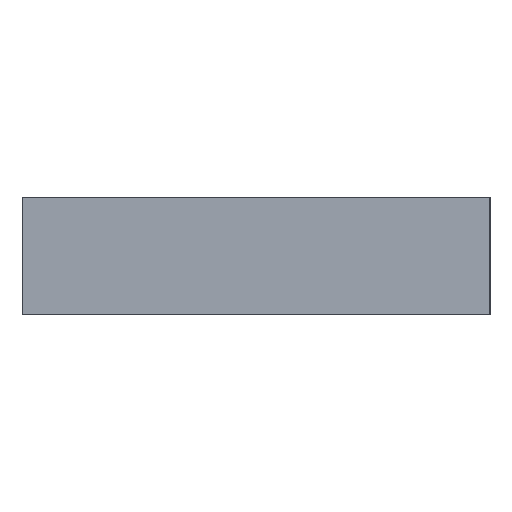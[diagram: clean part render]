
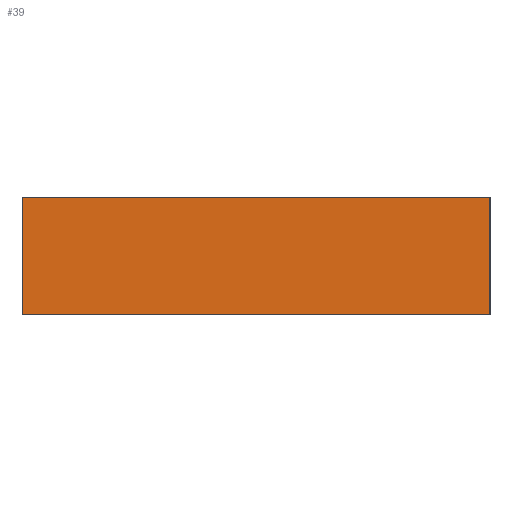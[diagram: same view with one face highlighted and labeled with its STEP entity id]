
A CAD part, left-side view. The second image highlights one B-rep face of the part: STEP entity #39.
In plain terms, the highlighted planar face has unit normal (-1, 0, 0).
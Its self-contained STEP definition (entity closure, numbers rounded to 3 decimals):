
#39 = ADVANCED_FACE('',(#40),#54,.F.);
#40 = FACE_BOUND('',#41,.F.);
#41 = EDGE_LOOP('',(#42,#77,#105,#133));
#42 = ORIENTED_EDGE('',*,*,#43,.F.);
#43 = EDGE_CURVE('',#44,#46,#48,.T.);
#44 = VERTEX_POINT('',#45);
#45 = CARTESIAN_POINT('',(-12.,-12.,-3.));
#46 = VERTEX_POINT('',#47);
#47 = CARTESIAN_POINT('',(-12.,-12.,3.));
#48 = SURFACE_CURVE('',#49,(#53,#65),.PCURVE_S1.);
#49 = LINE('',#50,#51);
#50 = CARTESIAN_POINT('',(-12.,-12.,-3.));
#51 = VECTOR('',#52,1.);
#52 = DIRECTION('',(0.,0.,1.));
#53 = PCURVE('',#54,#59);
#54 = PLANE('',#55);
#55 = AXIS2_PLACEMENT_3D('',#56,#57,#58);
#56 = CARTESIAN_POINT('',(-12.,-12.,-3.));
#57 = DIRECTION('',(1.,0.,-0.));
#58 = DIRECTION('',(0.,0.,1.));
#59 = DEFINITIONAL_REPRESENTATION('',(#60),#64);
#60 = LINE('',#61,#62);
#61 = CARTESIAN_POINT('',(0.,0.));
#62 = VECTOR('',#63,1.);
#63 = DIRECTION('',(1.,0.));
#64 = ( GEOMETRIC_REPRESENTATION_CONTEXT(2) 
PARAMETRIC_REPRESENTATION_CONTEXT() REPRESENTATION_CONTEXT('2D SPACE',''
  ) );
#65 = PCURVE('',#66,#71);
#66 = PLANE('',#67);
#67 = AXIS2_PLACEMENT_3D('',#68,#69,#70);
#68 = CARTESIAN_POINT('',(-12.,-12.,-3.));
#69 = DIRECTION('',(-0.,1.,0.));
#70 = DIRECTION('',(0.,0.,1.));
#71 = DEFINITIONAL_REPRESENTATION('',(#72),#76);
#72 = LINE('',#73,#74);
#73 = CARTESIAN_POINT('',(0.,0.));
#74 = VECTOR('',#75,1.);
#75 = DIRECTION('',(1.,0.));
#76 = ( GEOMETRIC_REPRESENTATION_CONTEXT(2) 
PARAMETRIC_REPRESENTATION_CONTEXT() REPRESENTATION_CONTEXT('2D SPACE',''
  ) );
#77 = ORIENTED_EDGE('',*,*,#78,.T.);
#78 = EDGE_CURVE('',#44,#79,#81,.T.);
#79 = VERTEX_POINT('',#80);
#80 = CARTESIAN_POINT('',(-12.,12.,-3.));
#81 = SURFACE_CURVE('',#82,(#86,#93),.PCURVE_S1.);
#82 = LINE('',#83,#84);
#83 = CARTESIAN_POINT('',(-12.,-12.,-3.));
#84 = VECTOR('',#85,1.);
#85 = DIRECTION('',(-0.,1.,0.));
#86 = PCURVE('',#54,#87);
#87 = DEFINITIONAL_REPRESENTATION('',(#88),#92);
#88 = LINE('',#89,#90);
#89 = CARTESIAN_POINT('',(0.,0.));
#90 = VECTOR('',#91,1.);
#91 = DIRECTION('',(0.,-1.));
#92 = ( GEOMETRIC_REPRESENTATION_CONTEXT(2) 
PARAMETRIC_REPRESENTATION_CONTEXT() REPRESENTATION_CONTEXT('2D SPACE',''
  ) );
#93 = PCURVE('',#94,#99);
#94 = PLANE('',#95);
#95 = AXIS2_PLACEMENT_3D('',#96,#97,#98);
#96 = CARTESIAN_POINT('',(-12.,-12.,-3.));
#97 = DIRECTION('',(0.,0.,1.));
#98 = DIRECTION('',(1.,0.,-0.));
#99 = DEFINITIONAL_REPRESENTATION('',(#100),#104);
#100 = LINE('',#101,#102);
#101 = CARTESIAN_POINT('',(0.,0.));
#102 = VECTOR('',#103,1.);
#103 = DIRECTION('',(0.,1.));
#104 = ( GEOMETRIC_REPRESENTATION_CONTEXT(2) 
PARAMETRIC_REPRESENTATION_CONTEXT() REPRESENTATION_CONTEXT('2D SPACE',''
  ) );
#105 = ORIENTED_EDGE('',*,*,#106,.T.);
#106 = EDGE_CURVE('',#79,#107,#109,.T.);
#107 = VERTEX_POINT('',#108);
#108 = CARTESIAN_POINT('',(-12.,12.,3.));
#109 = SURFACE_CURVE('',#110,(#114,#121),.PCURVE_S1.);
#110 = LINE('',#111,#112);
#111 = CARTESIAN_POINT('',(-12.,12.,-3.));
#112 = VECTOR('',#113,1.);
#113 = DIRECTION('',(0.,0.,1.));
#114 = PCURVE('',#54,#115);
#115 = DEFINITIONAL_REPRESENTATION('',(#116),#120);
#116 = LINE('',#117,#118);
#117 = CARTESIAN_POINT('',(0.,-24.));
#118 = VECTOR('',#119,1.);
#119 = DIRECTION('',(1.,0.));
#120 = ( GEOMETRIC_REPRESENTATION_CONTEXT(2) 
PARAMETRIC_REPRESENTATION_CONTEXT() REPRESENTATION_CONTEXT('2D SPACE',''
  ) );
#121 = PCURVE('',#122,#127);
#122 = PLANE('',#123);
#123 = AXIS2_PLACEMENT_3D('',#124,#125,#126);
#124 = CARTESIAN_POINT('',(-12.,12.,-3.));
#125 = DIRECTION('',(-0.,1.,0.));
#126 = DIRECTION('',(0.,0.,1.));
#127 = DEFINITIONAL_REPRESENTATION('',(#128),#132);
#128 = LINE('',#129,#130);
#129 = CARTESIAN_POINT('',(0.,0.));
#130 = VECTOR('',#131,1.);
#131 = DIRECTION('',(1.,0.));
#132 = ( GEOMETRIC_REPRESENTATION_CONTEXT(2) 
PARAMETRIC_REPRESENTATION_CONTEXT() REPRESENTATION_CONTEXT('2D SPACE',''
  ) );
#133 = ORIENTED_EDGE('',*,*,#134,.F.);
#134 = EDGE_CURVE('',#46,#107,#135,.T.);
#135 = SURFACE_CURVE('',#136,(#140,#147),.PCURVE_S1.);
#136 = LINE('',#137,#138);
#137 = CARTESIAN_POINT('',(-12.,-12.,3.));
#138 = VECTOR('',#139,1.);
#139 = DIRECTION('',(-0.,1.,0.));
#140 = PCURVE('',#54,#141);
#141 = DEFINITIONAL_REPRESENTATION('',(#142),#146);
#142 = LINE('',#143,#144);
#143 = CARTESIAN_POINT('',(6.,0.));
#144 = VECTOR('',#145,1.);
#145 = DIRECTION('',(0.,-1.));
#146 = ( GEOMETRIC_REPRESENTATION_CONTEXT(2) 
PARAMETRIC_REPRESENTATION_CONTEXT() REPRESENTATION_CONTEXT('2D SPACE',''
  ) );
#147 = PCURVE('',#148,#153);
#148 = PLANE('',#149);
#149 = AXIS2_PLACEMENT_3D('',#150,#151,#152);
#150 = CARTESIAN_POINT('',(-12.,-12.,3.));
#151 = DIRECTION('',(0.,0.,1.));
#152 = DIRECTION('',(1.,0.,-0.));
#153 = DEFINITIONAL_REPRESENTATION('',(#154),#158);
#154 = LINE('',#155,#156);
#155 = CARTESIAN_POINT('',(0.,0.));
#156 = VECTOR('',#157,1.);
#157 = DIRECTION('',(0.,1.));
#158 = ( GEOMETRIC_REPRESENTATION_CONTEXT(2) 
PARAMETRIC_REPRESENTATION_CONTEXT() REPRESENTATION_CONTEXT('2D SPACE',''
  ) );
